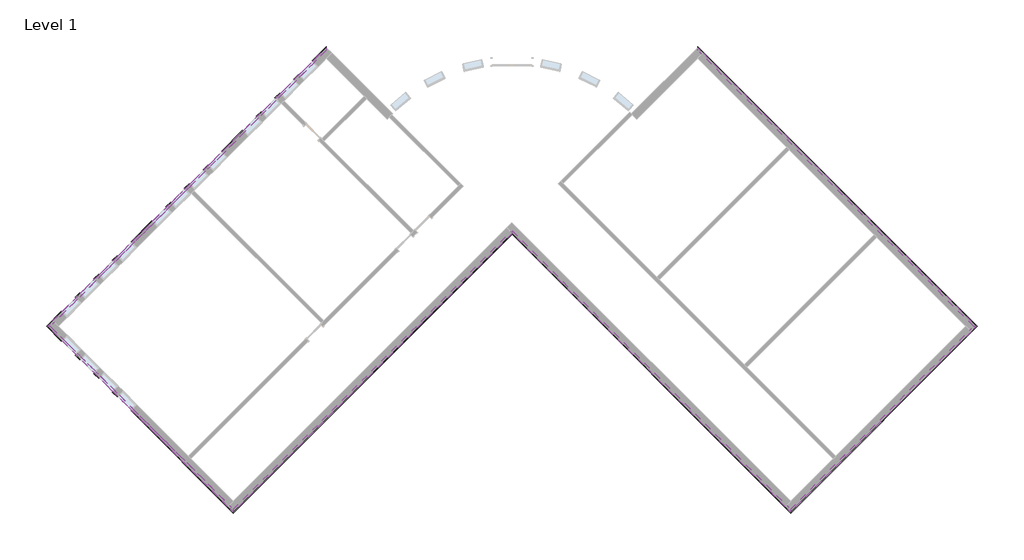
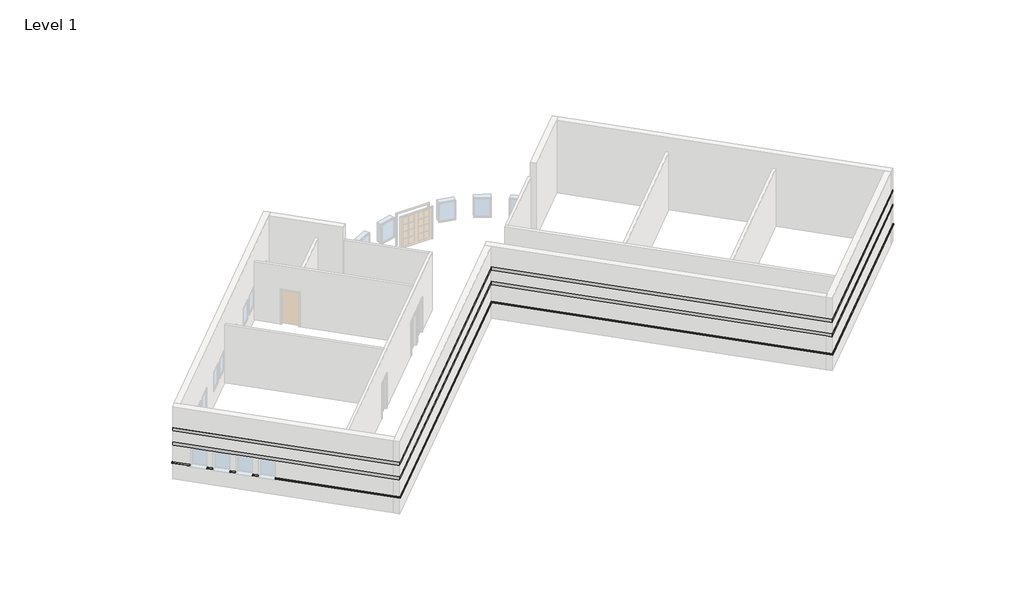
# One storey, part 3 of 3: 18 proxies.
"""IFC4 building model written with IfcOpenShell, lengths in millimetres."""

from ifc_helpers import new_model, si_unit, origin, place, context, project, spatial, faceted_brep, element, save

model = new_model("IFC4")

# Units and contexts
model_context = context("Model", 3, world=origin())
ifc_project = project(units=[si_unit("LENGTHUNIT", "METRE", prefix="MILLI")], contexts=[model_context])

# Site, building, storey
site = spatial("IfcSite", under=ifc_project)
building = spatial("IfcBuilding", under=site)
storey = spatial("IfcBuildingStorey", under=building, Name="Level 1", Elevation=0.0)

# Proxies
placement = place(None, origin())
element("IfcBuildingElementProxy", 1, Name="Wall Sweeps", at=placement, inside=storey, context=model_context, shape_type="Brep", body=[
    faceted_brep([(5178.0352806, 10812.8792927, 1085.85), (5178.0352806, 10943.0930065, 1085.85), (5178.0352806, 10992.4844151, 1041.4), (5178.0352806, 10992.4844151, 1016.0), (5178.0352806, 10812.8792927, 1016.0), (17979.3903812, -1988.4758079, 1085.85), (17979.3903812, -1988.4758079, 1016.0), (18158.9955036, -1988.4758079, 1016.0), (18158.9955036, -1988.4758079, 1041.4), (18109.604095, -1988.4758079, 1085.85), (5362.1305311, 10628.7840422, 1085.85), (5362.1305311, 10628.7840422, 1016.0)], [[[0, 1, 2, 3, 4]], [[5, 6, 7, 8, 9]], [[1, 0, 10, 5, 9]], [[2, 1, 9, 8]], [[3, 2, 8, 7]], [[4, 3, 7, 6, 11]], [[0, 4, 11, 6, 5, 10]]]),
])
element("IfcBuildingElementProxy", 2, Name="Wall Sweeps", at=placement, inside=storey, context=model_context, shape_type="Brep", body=[
    faceted_brep([(5178.0352806, 10943.0930065, 2336.8), (5178.0352806, 10943.0930065, 2133.6), (5178.0352806, 10812.8792927, 2133.6), (5178.0352806, 10812.8792927, 2336.8), (18109.604095, -1988.4758079, 2336.8), (17979.3903812, -1988.4758079, 2336.8), (17979.3903812, -1988.4758079, 2133.6), (18109.604095, -1988.4758079, 2133.6), (5427.237388, 10693.8908991, 2336.8), (5427.237388, 10693.8908991, 2133.6), (5362.1305311, 10628.7840422, 2133.6), (5362.1305311, 10628.7840422, 2336.8)], [[[0, 1, 2, 3]], [[4, 5, 6, 7]], [[1, 0, 8, 4, 7, 9]], [[2, 1, 9, 7, 6, 10]], [[3, 2, 10, 6, 5, 11]], [[0, 3, 11, 5, 4, 8]]]),
])
element("IfcBuildingElementProxy", 3, Name="Wall Sweeps", at=placement, inside=storey, context=model_context, shape_type="Brep", body=[
    faceted_brep([(5178.0352806, 10943.0930065, 3251.2), (5178.0352806, 10943.0930065, 3048.0), (5178.0352806, 10812.8792927, 3048.0), (5178.0352806, 10812.8792927, 3251.2), (18109.604095, -1988.4758079, 3251.2), (17979.3903812, -1988.4758079, 3251.2), (17979.3903812, -1988.4758079, 3048.0), (18109.604095, -1988.4758079, 3048.0), (5427.237388, 10693.8908991, 3251.2), (5427.237388, 10693.8908991, 3048.0), (5362.1305311, 10628.7840422, 3048.0), (5362.1305311, 10628.7840422, 3251.2)], [[[0, 1, 2, 3]], [[4, 5, 6, 7]], [[1, 0, 8, 4, 7, 9]], [[2, 1, 9, 7, 6, 10]], [[3, 2, 10, 6, 5, 11]], [[0, 3, 11, 5, 4, 8]]]),
])
element("IfcBuildingElementProxy", 4, Name="Wall Sweeps", at=placement, inside=storey, context=model_context, shape_type="Brep", body=[
    faceted_brep([(17979.3903812, -1988.4758079, 1085.85), (18109.604095, -1988.4758079, 1085.85), (18158.9955036, -1988.4758079, 1041.4), (18158.9955036, -1988.4758079, 1016.0), (17979.3903812, -1988.4758079, 1016.0), (9488.5582187, -10479.3079703, 1085.85), (9488.5582187, -10479.3079703, 1016.0), (9488.5582187, -10658.9130928, 1016.0), (9488.5582187, -10658.9130928, 1041.4), (9488.5582187, -10609.5216841, 1085.85), (17795.2951307, -2172.5710583, 1085.85), (17795.2951307, -2172.5710583, 1016.0)], [[[0, 1, 2, 3, 4]], [[5, 6, 7, 8, 9]], [[1, 0, 10, 5, 9]], [[2, 1, 9, 8]], [[3, 2, 8, 7]], [[4, 3, 7, 6, 11]], [[0, 4, 11, 6, 5, 10]]]),
])
element("IfcBuildingElementProxy", 5, Name="Wall Sweeps", at=placement, inside=storey, context=model_context, shape_type="Brep", body=[
    faceted_brep([(18109.604095, -1988.4758079, 2336.8), (18109.604095, -1988.4758079, 2133.6), (17979.3903812, -1988.4758079, 2133.6), (17979.3903812, -1988.4758079, 2336.8), (9488.5582187, -10609.5216841, 2336.8), (9488.5582187, -10479.3079703, 2336.8), (9488.5582187, -10479.3079703, 2133.6), (9488.5582187, -10609.5216841, 2133.6), (17860.4019876, -2237.6779152, 2336.8), (17860.4019876, -2237.6779152, 2133.6), (17795.2951307, -2172.5710583, 2133.6), (17795.2951307, -2172.5710583, 2336.8)], [[[0, 1, 2, 3]], [[4, 5, 6, 7]], [[1, 0, 8, 4, 7, 9]], [[2, 1, 9, 7, 6, 10]], [[3, 2, 10, 6, 5, 11]], [[0, 3, 11, 5, 4, 8]]]),
])
element("IfcBuildingElementProxy", 6, Name="Wall Sweeps", at=placement, inside=storey, context=model_context, shape_type="Brep", body=[
    faceted_brep([(18109.604095, -1988.4758079, 3251.2), (18109.604095, -1988.4758079, 3048.0), (17979.3903812, -1988.4758079, 3048.0), (17979.3903812, -1988.4758079, 3251.2), (9488.5582187, -10609.5216841, 3251.2), (9488.5582187, -10479.3079703, 3251.2), (9488.5582187, -10479.3079703, 3048.0), (9488.5582187, -10609.5216841, 3048.0), (17860.4019876, -2237.6779152, 3251.2), (17860.4019876, -2237.6779152, 3048.0), (17795.2951307, -2172.5710583, 3048.0), (17795.2951307, -2172.5710583, 3251.2)], [[[0, 1, 2, 3]], [[4, 5, 6, 7]], [[1, 0, 8, 4, 7, 9]], [[2, 1, 9, 7, 6, 10]], [[3, 2, 10, 6, 5, 11]], [[0, 3, 11, 5, 4, 8]]]),
])
element("IfcBuildingElementProxy", 7, Name="Wall Sweeps", at=placement, inside=storey, context=model_context, shape_type="Brep", body=[
    faceted_brep([(9488.5582187, -10479.3079703, 1085.85), (9488.5582187, -10609.5216841, 1085.85), (9488.5582187, -10658.9130928, 1041.4), (9488.5582187, -10658.9130928, 1016.0), (9488.5582187, -10479.3079703, 1016.0), (-3443.0105956, 2452.260844, 1085.85), (-3443.0105956, 2452.260844, 1016.0), (-3443.0105956, 2272.6557216, 1016.0), (-3443.0105956, 2272.6557216, 1041.4), (-3443.0105956, 2322.0471303, 1085.85), (9304.4629682, -10295.2127199, 1085.85), (9304.4629682, -10295.2127199, 1016.0)], [[[0, 1, 2, 3, 4]], [[5, 6, 7, 8, 9]], [[1, 0, 10, 5, 9]], [[2, 1, 9, 8]], [[3, 2, 8, 7]], [[4, 3, 7, 6, 11]], [[0, 4, 11, 6, 5, 10]]]),
])
element("IfcBuildingElementProxy", 8, Name="Wall Sweeps", at=placement, inside=storey, context=model_context, shape_type="Brep", body=[
    faceted_brep([(9488.5582187, -10609.5216841, 2336.8), (9488.5582187, -10609.5216841, 2133.6), (9488.5582187, -10479.3079703, 2133.6), (9488.5582187, -10479.3079703, 2336.8), (-3443.0105956, 2322.0471303, 2336.8), (-3443.0105956, 2452.260844, 2336.8), (-3443.0105956, 2452.260844, 2133.6), (-3443.0105956, 2322.0471303, 2133.6), (9239.3561114, -10360.3195767, 2336.8), (9239.3561114, -10360.3195767, 2133.6), (9304.4629682, -10295.2127199, 2133.6), (9304.4629682, -10295.2127199, 2336.8)], [[[0, 1, 2, 3]], [[4, 5, 6, 7]], [[1, 0, 8, 4, 7, 9]], [[2, 1, 9, 7, 6, 10]], [[3, 2, 10, 6, 5, 11]], [[0, 3, 11, 5, 4, 8]]]),
])
element("IfcBuildingElementProxy", 9, Name="Wall Sweeps", at=placement, inside=storey, context=model_context, shape_type="Brep", body=[
    faceted_brep([(9488.5582187, -10609.5216841, 3251.2), (9488.5582187, -10609.5216841, 3048.0), (9488.5582187, -10479.3079703, 3048.0), (9488.5582187, -10479.3079703, 3251.2), (-3443.0105956, 2322.0471303, 3251.2), (-3443.0105956, 2452.260844, 3251.2), (-3443.0105956, 2452.260844, 3048.0), (-3443.0105956, 2322.0471303, 3048.0), (9239.3561114, -10360.3195767, 3251.2), (9239.3561114, -10360.3195767, 3048.0), (9304.4629682, -10295.2127199, 3048.0), (9304.4629682, -10295.2127199, 3251.2)], [[[0, 1, 2, 3]], [[4, 5, 6, 7]], [[1, 0, 8, 4, 7, 9]], [[2, 1, 9, 7, 6, 10]], [[3, 2, 10, 6, 5, 11]], [[0, 3, 11, 5, 4, 8]]]),
])
element("IfcBuildingElementProxy", 10, Name="Wall Sweeps", at=placement, inside=storey, context=model_context, shape_type="Brep", body=[
    faceted_brep([(-3443.0105956, 2452.260844, 1085.85), (-3443.0105956, 2322.0471303, 1085.85), (-3443.0105956, 2272.6557216, 1041.4), (-3443.0105956, 2272.6557216, 1016.0), (-3443.0105956, 2452.260844, 1016.0), (-16374.5794099, -10479.3079703, 1085.85), (-16374.5794099, -10479.3079703, 1016.0), (-16374.5794099, -10658.9130928, 1016.0), (-16374.5794099, -10658.9130928, 1041.4), (-16374.5794099, -10609.5216841, 1085.85), (-3508.1174525, 2387.1539871, 1085.85), (-3508.1174525, 2387.1539871, 1016.0)], [[[0, 1, 2, 3, 4]], [[5, 6, 7, 8, 9]], [[1, 0, 10, 5, 9]], [[2, 1, 9, 8]], [[3, 2, 8, 7]], [[4, 3, 7, 6, 11]], [[0, 4, 11, 6, 5, 10]]]),
])
element("IfcBuildingElementProxy", 11, Name="Wall Sweeps", at=placement, inside=storey, context=model_context, shape_type="Brep", body=[
    faceted_brep([(-3443.0105956, 2322.0471303, 2336.8), (-3443.0105956, 2322.0471303, 2133.6), (-3443.0105956, 2452.260844, 2133.6), (-3443.0105956, 2452.260844, 2336.8), (-16374.5794099, -10609.5216841, 2336.8), (-16374.5794099, -10479.3079703, 2336.8), (-16374.5794099, -10479.3079703, 2133.6), (-16374.5794099, -10609.5216841, 2133.6), (-3508.1174525, 2387.1539871, 2133.6), (-3508.1174525, 2387.1539871, 2336.8)], [[[0, 1, 2, 3]], [[4, 5, 6, 7]], [[1, 0, 4, 7]], [[2, 1, 7, 6, 8]], [[3, 2, 8, 6, 5, 9]], [[0, 3, 9, 5, 4]]]),
])
element("IfcBuildingElementProxy", 12, Name="Wall Sweeps", at=placement, inside=storey, context=model_context, shape_type="Brep", body=[
    faceted_brep([(-3443.0105956, 2322.0471303, 3251.2), (-3443.0105956, 2322.0471303, 3048.0), (-3443.0105956, 2452.260844, 3048.0), (-3443.0105956, 2452.260844, 3251.2), (-16374.5794099, -10609.5216841, 3251.2), (-16374.5794099, -10479.3079703, 3251.2), (-16374.5794099, -10479.3079703, 3048.0), (-16374.5794099, -10609.5216841, 3048.0), (-3508.1174525, 2387.1539871, 3048.0), (-3508.1174525, 2387.1539871, 3251.2)], [[[0, 1, 2, 3]], [[4, 5, 6, 7]], [[1, 0, 4, 7]], [[2, 1, 7, 6, 8]], [[3, 2, 8, 6, 5, 9]], [[0, 3, 9, 5, 4]]]),
])
element("IfcBuildingElementProxy", 13, Name="Wall Sweeps", at=placement, inside=storey, context=model_context, shape_type="Brep", body=[
    faceted_brep([(-24267.1020084, -2586.7853719, 1085.85), (-24332.2088652, -2651.8922288, 1085.85), (-24356.9045696, -2676.5879331, 1041.4), (-24356.9045696, -2676.5879331, 1016.0), (-24332.2088652, -2651.8922288, 1016.0), (-24267.1020084, -2586.7853719, 1016.0), (-24865.4115724, -1988.4758079, 1085.85), (-24865.4115724, -1988.4758079, 1016.0), (-25045.0166948, -1988.4758079, 1016.0), (-25045.0166948, -1988.4758079, 1041.4), (-24995.6252862, -1988.4758079, 1085.85)], [[[0, 1, 2, 3, 4, 5]], [[6, 7, 8, 9, 10]], [[1, 0, 6, 10]], [[2, 1, 10, 9]], [[3, 2, 9, 8]], [[5, 4, 3, 8, 7]], [[0, 5, 7, 6]]]),
    faceted_brep([(-16374.5794099, -10479.3079703, 1085.85), (-16374.5794099, -10609.5216841, 1085.85), (-16374.5794099, -10658.9130928, 1041.4), (-16374.5794099, -10658.9130928, 1016.0), (-16374.5794099, -10479.3079703, 1016.0), (-21034.2098048, -5819.6775755, 1085.85), (-21034.2098048, -5819.6775755, 1016.0), (-21099.3166616, -5884.7844324, 1016.0), (-21124.012366, -5909.4801367, 1016.0), (-21124.012366, -5909.4801367, 1041.4), (-21099.3166616, -5884.7844324, 1085.85), (-16558.6746604, -10295.2127199, 1085.85), (-16558.6746604, -10295.2127199, 1016.0)], [[[0, 1, 2, 3, 4]], [[5, 6, 7, 8, 9, 10]], [[1, 0, 11, 5, 10]], [[2, 1, 10, 9]], [[3, 2, 9, 8]], [[4, 3, 8, 7, 6, 12]], [[0, 4, 12, 6, 5, 11]]]),
    faceted_brep([(-21680.7882455, -5173.0991348, 1085.85), (-21745.8951024, -5238.2059917, 1085.85), (-21770.5908067, -5262.901696, 1041.4), (-21770.5908067, -5262.901696, 1016.0), (-21745.8951024, -5238.2059917, 1016.0), (-21680.7882455, -5173.0991348, 1016.0), (-21896.3143924, -4957.5729879, 1085.85), (-21896.3143924, -4957.5729879, 1016.0), (-21961.4212493, -5022.6798448, 1016.0), (-21986.1169536, -5047.3755491, 1016.0), (-21986.1169536, -5047.3755491, 1041.4), (-21961.4212493, -5022.6798448, 1085.85)], [[[0, 1, 2, 3, 4, 5]], [[6, 7, 8, 9, 10, 11]], [[1, 0, 6, 11]], [[2, 1, 11, 10]], [[3, 2, 10, 9]], [[5, 4, 3, 9, 8, 7]], [[0, 5, 7, 6]]]),
    faceted_brep([(-22542.8928331, -4310.9945472, 1085.85), (-22607.99969, -4376.1014041, 1085.85), (-22632.6953943, -4400.7971084, 1041.4), (-22632.6953943, -4400.7971084, 1016.0), (-22607.99969, -4376.1014041, 1016.0), (-22542.8928331, -4310.9945472, 1016.0), (-22758.41898, -4095.4684003, 1085.85), (-22758.41898, -4095.4684003, 1016.0), (-22823.5258369, -4160.5752571, 1016.0), (-22848.2215412, -4185.2709615, 1016.0), (-22848.2215412, -4185.2709615, 1041.4), (-22823.5258369, -4160.5752571, 1085.85)], [[[0, 1, 2, 3, 4, 5]], [[6, 7, 8, 9, 10, 11]], [[1, 0, 6, 11]], [[2, 1, 11, 10]], [[3, 2, 10, 9]], [[5, 4, 3, 9, 8, 7]], [[0, 5, 7, 6]]]),
    faceted_brep([(-23404.9974207, -3448.8899596, 1085.85), (-23470.1042776, -3513.9968164, 1085.85), (-23494.7999819, -3538.6925208, 1041.4), (-23494.7999819, -3538.6925208, 1016.0), (-23470.1042776, -3513.9968164, 1016.0), (-23404.9974207, -3448.8899596, 1016.0), (-23620.5235676, -3233.3638126, 1085.85), (-23620.5235676, -3233.3638126, 1016.0), (-23685.6304245, -3298.4706695, 1016.0), (-23710.3261288, -3323.1663739, 1016.0), (-23710.3261288, -3323.1663739, 1041.4), (-23685.6304245, -3298.4706695, 1085.85)], [[[0, 1, 2, 3, 4, 5]], [[6, 7, 8, 9, 10, 11]], [[1, 0, 6, 11]], [[2, 1, 11, 10]], [[3, 2, 10, 9]], [[5, 4, 3, 9, 8, 7]], [[0, 5, 7, 6]]]),
])
element("IfcBuildingElementProxy", 14, Name="Wall Sweeps", at=placement, inside=storey, context=model_context, shape_type="Brep", body=[
    faceted_brep([(-16374.5794099, -10609.5216841, 2336.8), (-16374.5794099, -10609.5216841, 2133.6), (-16374.5794099, -10479.3079703, 2133.6), (-16374.5794099, -10479.3079703, 2336.8), (-24995.6252862, -1988.4758079, 2336.8), (-24865.4115724, -1988.4758079, 2336.8), (-24865.4115724, -1988.4758079, 2133.6), (-24995.6252862, -1988.4758079, 2133.6), (-16623.7815173, -10360.3195767, 2336.8), (-24332.2088652, -2651.8922288, 2133.6), (-23685.6304245, -3298.4706695, 2133.6), (-23470.1042776, -3513.9968164, 2133.6), (-22823.5258369, -4160.5752571, 2133.6), (-22607.99969, -4376.1014041, 2133.6), (-21961.4212493, -5022.6798448, 2133.6), (-21745.8951024, -5238.2059917, 2133.6), (-21099.3166616, -5884.7844324, 2133.6), (-16623.7815173, -10360.3195767, 2133.6), (-24267.1020084, -2586.7853719, 2133.6), (-23620.5235676, -3233.3638126, 2133.6), (-23404.9974207, -3448.8899596, 2133.6), (-22758.41898, -4095.4684003, 2133.6), (-22542.8928331, -4310.9945472, 2133.6), (-21896.3143924, -4957.5729879, 2133.6), (-21680.7882455, -5173.0991348, 2133.6), (-21034.2098048, -5819.6775755, 2133.6), (-16558.6746604, -10295.2127199, 2133.6), (-16558.6746604, -10295.2127199, 2336.8)], [[[0, 1, 2, 3]], [[4, 5, 6, 7]], [[1, 0, 8, 4, 7, 9, 10, 11, 12, 13, 14, 15, 16, 17]], [[2, 1, 17, 16, 15, 14, 13, 12, 11, 10, 9, 7, 6, 18, 19, 20, 21, 22, 23, 24, 25, 26]], [[3, 2, 26, 25, 24, 23, 22, 21, 20, 19, 18, 6, 5, 27]], [[0, 3, 27, 5, 4, 8]]]),
])
element("IfcBuildingElementProxy", 15, Name="Wall Sweeps", at=placement, inside=storey, context=model_context, shape_type="Brep", body=[
    faceted_brep([(-16374.5794099, -10609.5216841, 3251.2), (-16374.5794099, -10609.5216841, 3048.0), (-16374.5794099, -10479.3079703, 3048.0), (-16374.5794099, -10479.3079703, 3251.2), (-24995.6252862, -1988.4758079, 3251.2), (-24865.4115724, -1988.4758079, 3251.2), (-24865.4115724, -1988.4758079, 3048.0), (-24995.6252862, -1988.4758079, 3048.0), (-16623.7815173, -10360.3195767, 3251.2), (-16623.7815173, -10360.3195767, 3048.0), (-16558.6746604, -10295.2127199, 3048.0), (-16558.6746604, -10295.2127199, 3251.2)], [[[0, 1, 2, 3]], [[4, 5, 6, 7]], [[1, 0, 8, 4, 7, 9]], [[2, 1, 9, 7, 6, 10]], [[3, 2, 10, 6, 5, 11]], [[0, 3, 11, 5, 4, 8]]]),
])
element("IfcBuildingElementProxy", 16, Name="Wall Sweeps", at=placement, inside=storey, context=model_context, shape_type="Brep", body=[
    faceted_brep([(-12628.6900754, 10248.2456891, 1085.85), (-12693.7969323, 10313.352546, 1085.85), (-12718.4926367, 10338.0482503, 1041.4), (-12718.4926367, 10338.0482503, 1016.0), (-12693.7969323, 10313.352546, 1016.0), (-12628.6900754, 10248.2456891, 1016.0), (-12064.0564718, 10812.8792927, 1085.85), (-12064.0564718, 10812.8792927, 1016.0), (-12064.0564718, 10992.4844151, 1016.0), (-12064.0564718, 10992.4844151, 1041.4), (-12064.0564718, 10943.0930065, 1085.85)], [[[0, 1, 2, 3, 4, 5]], [[6, 7, 8, 9, 10]], [[1, 0, 6, 10]], [[2, 1, 10, 9]], [[3, 2, 9, 8]], [[5, 4, 3, 8, 7]], [[0, 5, 7, 6]]]),
    faceted_brep([(-13490.7946631, 9386.1411015, 1085.85), (-13555.9015199, 9451.2479584, 1085.85), (-13580.5972243, 9475.9436627, 1041.4), (-13580.5972243, 9475.9436627, 1016.0), (-13555.9015199, 9451.2479584, 1016.0), (-13490.7946631, 9386.1411015, 1016.0), (-13275.2685162, 9601.6672484, 1085.85), (-13275.2685162, 9601.6672484, 1016.0), (-13340.375373, 9666.7741053, 1016.0), (-13365.0710774, 9691.4698096, 1016.0), (-13365.0710774, 9691.4698096, 1041.4), (-13340.375373, 9666.7741053, 1085.85)], [[[0, 1, 2, 3, 4, 5]], [[6, 7, 8, 9, 10, 11]], [[1, 0, 6, 11]], [[2, 1, 11, 10]], [[3, 2, 10, 9]], [[5, 4, 3, 9, 8, 7]], [[0, 5, 7, 6]]]),
    faceted_brep([(-14352.8992507, 8524.0365139, 1085.85), (-14418.0061076, 8589.1433707, 1085.85), (-14442.7018119, 8613.8390751, 1041.4), (-14442.7018119, 8613.8390751, 1016.0), (-14418.0061076, 8589.1433707, 1016.0), (-14352.8992507, 8524.0365139, 1016.0), (-14137.3731038, 8739.5626608, 1085.85), (-14137.3731038, 8739.5626608, 1016.0), (-14202.4799607, 8804.6695176, 1016.0), (-14227.175665, 8829.365222, 1016.0), (-14227.175665, 8829.365222, 1041.4), (-14202.4799607, 8804.6695176, 1085.85)], [[[0, 1, 2, 3, 4, 5]], [[6, 7, 8, 9, 10, 11]], [[1, 0, 6, 11]], [[2, 1, 11, 10]], [[3, 2, 10, 9]], [[5, 4, 3, 9, 8, 7]], [[0, 5, 7, 6]]]),
    faceted_brep([(-15215.0038383, 7661.9319262, 1085.85), (-15280.1106952, 7727.0387831, 1085.85), (-15304.8063995, 7751.7344875, 1041.4), (-15304.8063995, 7751.7344875, 1016.0), (-15280.1106952, 7727.0387831, 1016.0), (-15215.0038383, 7661.9319262, 1016.0), (-14999.4776914, 7877.4580731, 1085.85), (-14999.4776914, 7877.4580731, 1016.0), (-15064.5845483, 7942.56493, 1016.0), (-15089.2802526, 7967.2606344, 1016.0), (-15089.2802526, 7967.2606344, 1041.4), (-15064.5845483, 7942.56493, 1085.85)], [[[0, 1, 2, 3, 4, 5]], [[6, 7, 8, 9, 10, 11]], [[1, 0, 6, 11]], [[2, 1, 11, 10]], [[3, 2, 10, 9]], [[5, 4, 3, 9, 8, 7]], [[0, 5, 7, 6]]]),
    faceted_brep([(-16831.4499401, 6045.4858244, 1085.85), (-16896.556797, 6110.5926813, 1085.85), (-16921.2525013, 6135.2883857, 1041.4), (-16921.2525013, 6135.2883857, 1016.0), (-16896.556797, 6110.5926813, 1016.0), (-16831.4499401, 6045.4858244, 1016.0), (-15861.582279, 7015.3534855, 1085.85), (-15861.582279, 7015.3534855, 1016.0), (-15926.6891359, 7080.4603424, 1016.0), (-15951.3848402, 7105.1560467, 1016.0), (-15951.3848402, 7105.1560467, 1041.4), (-15926.6891359, 7080.4603424, 1085.85)], [[[0, 1, 2, 3, 4, 5]], [[6, 7, 8, 9, 10, 11]], [[1, 0, 6, 11]], [[2, 1, 11, 10]], [[3, 2, 10, 9]], [[5, 4, 3, 9, 8, 7]], [[0, 5, 7, 6]]]),
    faceted_brep([(-21034.2098048, 1842.7259598, 1085.85), (-21099.3166616, 1907.8328167, 1085.85), (-21124.012366, 1932.528521, 1041.4), (-21124.012366, 1932.528521, 1016.0), (-21099.3166616, 1907.8328167, 1016.0), (-21034.2098048, 1842.7259598, 1016.0), (-20064.3421437, 2812.5936209, 1085.85), (-20064.3421437, 2812.5936209, 1016.0), (-20129.4490006, 2877.7004777, 1016.0), (-20154.1447049, 2902.3961821, 1016.0), (-20154.1447049, 2902.3961821, 1041.4), (-20129.4490006, 2877.7004777, 1085.85)], [[[0, 1, 2, 3, 4, 5]], [[6, 7, 8, 9, 10, 11]], [[1, 0, 6, 11]], [[2, 1, 11, 10]], [[3, 2, 10, 9]], [[5, 4, 3, 9, 8, 7]], [[0, 5, 7, 6]]]),
    faceted_brep([(-19417.763703, 3459.1720616, 1085.85), (-19482.8705599, 3524.2789185, 1085.85), (-19507.5662642, 3548.9746228, 1041.4), (-19507.5662642, 3548.9746228, 1016.0), (-19482.8705599, 3524.2789185, 1016.0), (-19417.763703, 3459.1720616, 1016.0), (-19202.2375561, 3674.6982085, 1085.85), (-19202.2375561, 3674.6982085, 1016.0), (-19267.3444129, 3739.8050654, 1016.0), (-19292.0401173, 3764.5007697, 1016.0), (-19292.0401173, 3764.5007697, 1041.4), (-19267.3444129, 3739.8050654, 1085.85)], [[[0, 1, 2, 3, 4, 5]], [[6, 7, 8, 9, 10, 11]], [[1, 0, 6, 11]], [[2, 1, 11, 10]], [[3, 2, 10, 9]], [[5, 4, 3, 9, 8, 7]], [[0, 5, 7, 6]]]),
    faceted_brep([(-18555.6591154, 4321.2766492, 1085.85), (-18620.7659722, 4386.3835061, 1085.85), (-18645.4616766, 4411.0792104, 1041.4), (-18645.4616766, 4411.0792104, 1016.0), (-18620.7659722, 4386.3835061, 1016.0), (-18555.6591154, 4321.2766492, 1016.0), (-18340.1329684, 4536.8027961, 1085.85), (-18340.1329684, 4536.8027961, 1016.0), (-18405.2398253, 4601.909653, 1016.0), (-18429.9355297, 4626.6053573, 1016.0), (-18429.9355297, 4626.6053573, 1041.4), (-18405.2398253, 4601.909653, 1085.85)], [[[0, 1, 2, 3, 4, 5]], [[6, 7, 8, 9, 10, 11]], [[1, 0, 6, 11]], [[2, 1, 11, 10]], [[3, 2, 10, 9]], [[5, 4, 3, 9, 8, 7]], [[0, 5, 7, 6]]]),
    faceted_brep([(-17693.5545277, 5183.3812368, 1085.85), (-17758.6613846, 5248.4880937, 1085.85), (-17783.3570889, 5273.183798, 1041.4), (-17783.3570889, 5273.183798, 1016.0), (-17758.6613846, 5248.4880937, 1016.0), (-17693.5545277, 5183.3812368, 1016.0), (-17478.0283808, 5398.9073837, 1085.85), (-17478.0283808, 5398.9073837, 1016.0), (-17543.1352377, 5464.0142406, 1016.0), (-17567.830942, 5488.7099449, 1016.0), (-17567.830942, 5488.7099449, 1041.4), (-17543.1352377, 5464.0142406, 1085.85)], [[[0, 1, 2, 3, 4, 5]], [[6, 7, 8, 9, 10, 11]], [[1, 0, 6, 11]], [[2, 1, 11, 10]], [[3, 2, 10, 9]], [[5, 4, 3, 9, 8, 7]], [[0, 5, 7, 6]]]),
    faceted_brep([(-24865.4115724, -1988.4758079, 1085.85), (-24995.6252862, -1988.4758079, 1085.85), (-25045.0166948, -1988.4758079, 1041.4), (-25045.0166948, -1988.4758079, 1016.0), (-24865.4115724, -1988.4758079, 1016.0), (-24267.1020084, -1390.1662438, 1085.85), (-24267.1020084, -1390.1662438, 1016.0), (-24332.2088652, -1325.0593869, 1016.0), (-24356.9045696, -1300.3636826, 1016.0), (-24356.9045696, -1300.3636826, 1041.4), (-24332.2088652, -1325.0593869, 1085.85), (-24681.3163219, -1804.3805574, 1085.85), (-24681.3163219, -1804.3805574, 1016.0)], [[[0, 1, 2, 3, 4]], [[5, 6, 7, 8, 9, 10]], [[1, 0, 11, 5, 10]], [[2, 1, 10, 9]], [[3, 2, 9, 8]], [[4, 3, 8, 7, 6, 12]], [[0, 4, 12, 6, 5, 11]]]),
    faceted_brep([(-23620.5235676, -743.5878031, 1085.85), (-23685.6304245, -678.4809462, 1085.85), (-23710.3261288, -653.7852419, 1041.4), (-23710.3261288, -653.7852419, 1016.0), (-23685.6304245, -678.4809462, 1016.0), (-23620.5235676, -743.5878031, 1016.0), (-23404.9974207, -528.0616562, 1085.85), (-23404.9974207, -528.0616562, 1016.0), (-23470.1042776, -462.9547993, 1016.0), (-23494.7999819, -438.259095, 1016.0), (-23494.7999819, -438.259095, 1041.4), (-23470.1042776, -462.9547993, 1085.85)], [[[0, 1, 2, 3, 4, 5]], [[6, 7, 8, 9, 10, 11]], [[1, 0, 6, 11]], [[2, 1, 11, 10]], [[3, 2, 10, 9]], [[5, 4, 3, 9, 8, 7]], [[0, 5, 7, 6]]]),
    faceted_brep([(-22758.41898, 118.5167845, 1085.85), (-22823.5258369, 183.6236414, 1085.85), (-22848.2215412, 208.3193458, 1041.4), (-22848.2215412, 208.3193458, 1016.0), (-22823.5258369, 183.6236414, 1016.0), (-22758.41898, 118.5167845, 1016.0), (-22542.8928331, 334.0429314, 1085.85), (-22542.8928331, 334.0429314, 1016.0), (-22607.99969, 399.1497883, 1016.0), (-22632.6953943, 423.8454927, 1016.0), (-22632.6953943, 423.8454927, 1041.4), (-22607.99969, 399.1497883, 1085.85)], [[[0, 1, 2, 3, 4, 5]], [[6, 7, 8, 9, 10, 11]], [[1, 0, 6, 11]], [[2, 1, 11, 10]], [[3, 2, 10, 9]], [[5, 4, 3, 9, 8, 7]], [[0, 5, 7, 6]]]),
    faceted_brep([(-21896.3143924, 980.6213722, 1085.85), (-21961.4212493, 1045.728229, 1085.85), (-21986.1169536, 1070.4239334, 1041.4), (-21986.1169536, 1070.4239334, 1016.0), (-21961.4212493, 1045.728229, 1016.0), (-21896.3143924, 980.6213722, 1016.0), (-21680.7882455, 1196.1475191, 1085.85), (-21680.7882455, 1196.1475191, 1016.0), (-21745.8951024, 1261.2543759, 1016.0), (-21770.5908067, 1285.9500803, 1016.0), (-21770.5908067, 1285.9500803, 1041.4), (-21745.8951024, 1261.2543759, 1085.85)], [[[0, 1, 2, 3, 4, 5]], [[6, 7, 8, 9, 10, 11]], [[1, 0, 6, 11]], [[2, 1, 11, 10]], [[3, 2, 10, 9]], [[5, 4, 3, 9, 8, 7]], [[0, 5, 7, 6]]]),
])
element("IfcBuildingElementProxy", 17, Name="Wall Sweeps", at=placement, inside=storey, context=model_context, shape_type="Brep", body=[
    faceted_brep([(-24995.6252862, -1988.4758079, 2336.8), (-24995.6252862, -1988.4758079, 2133.6), (-24865.4115724, -1988.4758079, 2133.6), (-24865.4115724, -1988.4758079, 2336.8), (-12064.0564718, 10943.0930065, 2336.8), (-12064.0564718, 10812.8792927, 2336.8), (-12064.0564718, 10812.8792927, 2133.6), (-12064.0564718, 10943.0930065, 2133.6), (-24746.4231788, -1739.2737005, 2336.8), (-12693.7969323, 10313.352546, 2133.6), (-13340.375373, 9666.7741053, 2133.6), (-13555.9015199, 9451.2479584, 2133.6), (-14202.4799607, 8804.6695176, 2133.6), (-14418.0061076, 8589.1433707, 2133.6), (-15064.5845483, 7942.56493, 2133.6), (-15280.1106952, 7727.0387831, 2133.6), (-15926.6891359, 7080.4603424, 2133.6), (-16896.556797, 6110.5926813, 2133.6), (-17543.1352377, 5464.0142406, 2133.6), (-17758.6613846, 5248.4880937, 2133.6), (-18405.2398253, 4601.909653, 2133.6), (-18620.7659722, 4386.3835061, 2133.6), (-19267.3444129, 3739.8050654, 2133.6), (-19482.8705599, 3524.2789185, 2133.6), (-20129.4490006, 2877.7004777, 2133.6), (-21099.3166616, 1907.8328167, 2133.6), (-21745.8951024, 1261.2543759, 2133.6), (-21961.4212493, 1045.728229, 2133.6), (-22607.99969, 399.1497883, 2133.6), (-22823.5258369, 183.6236414, 2133.6), (-23470.1042776, -462.9547993, 2133.6), (-23685.6304245, -678.4809462, 2133.6), (-24332.2088652, -1325.0593869, 2133.6), (-24746.4231788, -1739.2737005, 2133.6), (-12628.6900754, 10248.2456891, 2133.6), (-13275.2685162, 9601.6672484, 2133.6), (-13490.7946631, 9386.1411015, 2133.6), (-14137.3731038, 8739.5626608, 2133.6), (-14352.8992507, 8524.0365139, 2133.6), (-14999.4776914, 7877.4580731, 2133.6), (-15215.0038383, 7661.9319262, 2133.6), (-15861.582279, 7015.3534855, 2133.6), (-16831.4499401, 6045.4858244, 2133.6), (-17478.0283808, 5398.9073837, 2133.6), (-17693.5545277, 5183.3812368, 2133.6), (-18340.1329684, 4536.8027961, 2133.6), (-18555.6591154, 4321.2766492, 2133.6), (-19202.2375561, 3674.6982085, 2133.6), (-19417.763703, 3459.1720616, 2133.6), (-20064.3421437, 2812.5936209, 2133.6), (-21034.2098048, 1842.7259598, 2133.6), (-21680.7882455, 1196.1475191, 2133.6), (-21896.3143924, 980.6213722, 2133.6), (-22542.8928331, 334.0429314, 2133.6), (-22758.41898, 118.5167845, 2133.6), (-23404.9974207, -528.0616562, 2133.6), (-23620.5235676, -743.5878031, 2133.6), (-24267.1020084, -1390.1662438, 2133.6), (-24681.3163219, -1804.3805574, 2133.6), (-24681.3163219, -1804.3805574, 2336.8)], [[[0, 1, 2, 3]], [[4, 5, 6, 7]], [[1, 0, 8, 4, 7, 9, 10, 11, 12, 13, 14, 15, 16, 17, 18, 19, 20, 21, 22, 23, 24, 25, 26, 27, 28, 29, 30, 31, 32, 33]], [[2, 1, 33, 32, 31, 30, 29, 28, 27, 26, 25, 24, 23, 22, 21, 20, 19, 18, 17, 16, 15, 14, 13, 12, 11, 10, 9, 7, 6, 34, 35, 36, 37, 38, 39, 40, 41, 42, 43, 44, 45, 46, 47, 48, 49, 50, 51, 52, 53, 54, 55, 56, 57, 58]], [[3, 2, 58, 57, 56, 55, 54, 53, 52, 51, 50, 49, 48, 47, 46, 45, 44, 43, 42, 41, 40, 39, 38, 37, 36, 35, 34, 6, 5, 59]], [[0, 3, 59, 5, 4, 8]]]),
])
element("IfcBuildingElementProxy", 18, Name="Wall Sweeps", at=placement, inside=storey, context=model_context, shape_type="Brep", body=[
    faceted_brep([(-24995.6252862, -1988.4758079, 3251.2), (-24995.6252862, -1988.4758079, 3048.0), (-24865.4115724, -1988.4758079, 3048.0), (-24865.4115724, -1988.4758079, 3251.2), (-12064.0564718, 10943.0930065, 3251.2), (-12064.0564718, 10812.8792927, 3251.2), (-12064.0564718, 10812.8792927, 3048.0), (-12064.0564718, 10943.0930065, 3048.0), (-24746.4231788, -1739.2737005, 3251.2), (-24746.4231788, -1739.2737005, 3048.0), (-24681.3163219, -1804.3805574, 3048.0), (-24681.3163219, -1804.3805574, 3251.2)], [[[0, 1, 2, 3]], [[4, 5, 6, 7]], [[1, 0, 8, 4, 7, 9]], [[2, 1, 9, 7, 6, 10]], [[3, 2, 10, 6, 5, 11]], [[0, 3, 11, 5, 4, 8]]]),
])

save(model, "model.ifc")
